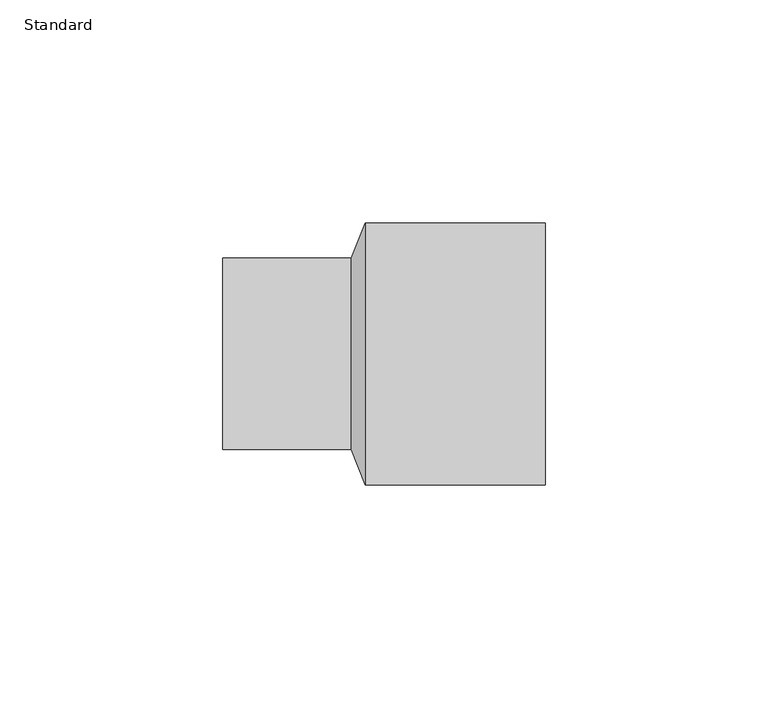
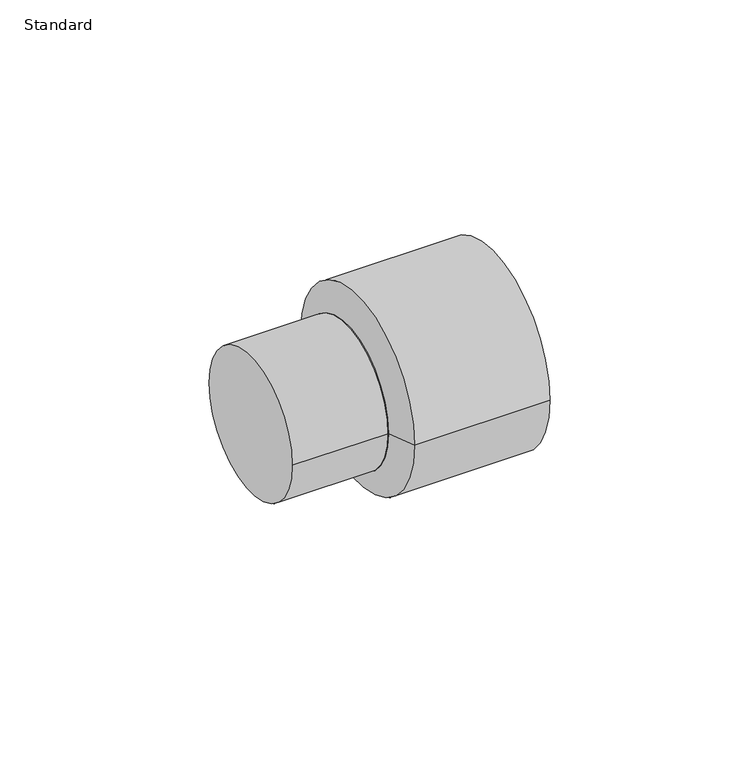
"""IFC4 building model written with IfcOpenShell, lengths in millimetres: pipe fitting geometry, M_Coupling Reducing - CPVC - Sch 40 : Standard."""

import ifcopenshell
import ifcopenshell.guid

model = None  # the IFC model being written
_history = None  # IfcOwnerHistory: only IFC2X3 demands one
_inside = {}  # id of a spatial element -> (the spatial element, [elements in it])
_under = {}  # id of a project, library or spatial element -> (it, [spatial elements below it])
_declared = {}  # id of a project -> (the project, [libraries it declares])
_typed = {}  # id of a type object -> (the type object, [elements of that type])
_made_of = {}  # id of a material, layer set ... -> (it, [elements and type objects made of it])


def new_model(schema):
    """Start an empty IFC model of exactly this schema.

    Asked for "IFC4X3", IfcOpenShell would pick the latest addendum, in which some entities
    have other attributes; the version numbers below select the first issue.
    IFC2X3 requires an IfcOwnerHistory on every rooted entity: one is made here for all.
    """
    global model, _history
    if schema == "IFC4X3":
        model = ifcopenshell.file(schema_version=(4, 3, 0, 0))
    else:
        model = ifcopenshell.file(schema=schema)
    _inside.clear()
    _under.clear()
    _declared.clear()
    _typed.clear()
    _made_of.clear()
    _history = None
    if model.schema == "IFC2X3":
        org = make("IfcOrganization", Name="unknown")
        user = make(
            "IfcPersonAndOrganization",
            ThePerson=make("IfcPerson", FamilyName="unknown"),
            TheOrganization=org,
        )
        app = make(
            "IfcApplication",
            ApplicationDeveloper=org,
            Version="unknown",
            ApplicationFullName="unknown",
            ApplicationIdentifier="unknown",
        )
        _history = make(
            "IfcOwnerHistory",
            OwningUser=user,
            OwningApplication=app,
            ChangeAction="ADDED",
            CreationDate=0,
        )
    return model


def make(cls, **values):
    """One entity of the class cls with the attributes given. An attribute that is None is left unset."""
    return model.create_entity(
        cls, **{name: value for name, value in values.items() if value is not None}
    )


def rooted(cls, **values):
    """An entity with a GlobalId (a new one), such as an element, a storey or a relation."""
    return make(cls, GlobalId=ifcopenshell.guid.new(), OwnerHistory=_history, **values)


def si_unit(unit_type, name, prefix=None):
    """IfcSIUnit, for example si_unit("LENGTHUNIT", "METRE", prefix="MILLI")."""
    return make("IfcSIUnit", UnitType=unit_type, Prefix=prefix, Name=name)


def assignment(units):
    """IfcUnitAssignment: the units of a project."""
    return None if units is None else make("IfcUnitAssignment", Units=units)


def point(xyz):
    """IfcCartesianPoint."""
    return None if xyz is None else make("IfcCartesianPoint", Coordinates=xyz)


def direction(xyz):
    """IfcDirection."""
    return None if xyz is None else make("IfcDirection", DirectionRatios=xyz)


def frame(location, z_axis=None, x_axis=None):
    """IfcAxis2Placement3D, a coordinate frame: its origin and axes. An axis left out is left unset."""
    return make(
        "IfcAxis2Placement3D",
        Location=point(location),
        Axis=direction(z_axis),
        RefDirection=direction(x_axis),
    )


def frame_2d(location, x_axis=None):
    """IfcAxis2Placement2D, a coordinate frame in the plane: its origin and x axis."""
    return make(
        "IfcAxis2Placement2D", Location=point(location), RefDirection=direction(x_axis)
    )


def origin():
    """The frame at (0, 0, 0) with its axes left unset."""
    return frame((0.0, 0.0, 0.0))


def origin_2d():
    """The frame at (0, 0) in the plane with its x axis left unset."""
    return frame_2d((0.0, 0.0))


def place(relative_to, where):
    """IfcLocalPlacement: puts the frame where relative to a parent placement (None: the world)."""
    return make(
        "IfcLocalPlacement", PlacementRelTo=relative_to, RelativePlacement=where
    )


def context(
    kind, dimensions, precision=None, world=None, true_north=None, identifier=None
):
    """IfcGeometricRepresentationContext, for example the 3D "Model" context."""
    return make(
        "IfcGeometricRepresentationContext",
        ContextIdentifier=identifier,
        ContextType=kind,
        CoordinateSpaceDimension=dimensions,
        Precision=precision,
        WorldCoordinateSystem=world,
        TrueNorth=true_north,
    )


def project(units=None, contexts=None):
    """IfcProject with its units and contexts."""
    return rooted(
        "IfcProject",
        Name="project",
        RepresentationContexts=contexts,
        UnitsInContext=assignment(units),
    )


def spatial(cls, under=None, at=None, **own):
    """A site, building, storey or space (cls), placed at a placement, below another one or the project."""
    s = rooted(cls, ObjectPlacement=at, **own)
    if under is not None:
        _under.setdefault(under.id(), (under, []))[1].append(s)
    return s


def polyline(points):
    """IfcPolyline through the points."""
    return make("IfcPolyline", Points=[point(p) for p in points])


def circle_curve(where, radius):
    """IfcCircle in the frame where."""
    return make("IfcCircle", Position=where, Radius=radius)


def trimmed(basis, trim1, trim2, sense, master):
    """IfcTrimmedCurve: the piece of a basis curve between two trims."""
    return make(
        "IfcTrimmedCurve",
        BasisCurve=basis,
        Trim1=trim1,
        Trim2=trim2,
        SenseAgreement=sense,
        MasterRepresentation=master,
    )


def segment(curve, same_sense, transition):
    """IfcCompositeCurveSegment."""
    return make(
        "IfcCompositeCurveSegment",
        Transition=transition,
        SameSense=same_sense,
        ParentCurve=curve,
    )


def composite_curve(segments, self_intersect=None):
    """IfcCompositeCurve: segments joined end to end."""
    return make("IfcCompositeCurve", Segments=segments, SelfIntersect=self_intersect)


def outline(outer, holes=None, kind="AREA"):
    """IfcArbitraryClosedProfileDef: a profile drawn as a closed curve; with holes, ...WithVoids."""
    if holes is None:
        return make("IfcArbitraryClosedProfileDef", ProfileType=kind, OuterCurve=outer)
    return make(
        "IfcArbitraryProfileDefWithVoids",
        ProfileType=kind,
        OuterCurve=outer,
        InnerCurves=holes,
    )


def extrude(swept, where, along, depth):
    """IfcExtrudedAreaSolid: the profile swept, set in the frame where, extruded along a direction by depth."""
    return make(
        "IfcExtrudedAreaSolid",
        SweptArea=swept,
        Position=where,
        ExtrudedDirection=direction(along),
        Depth=depth,
    )


def shape(context_of_items, identifier, shape_type, items):
    """IfcShapeRepresentation: the items that make up one representation, for example the "Body"."""
    return make(
        "IfcShapeRepresentation",
        ContextOfItems=context_of_items,
        RepresentationIdentifier=identifier,
        RepresentationType=shape_type,
        Items=items,
    )


def source(mapping_origin, context_of_items, identifier, shape_type, items):
    """IfcRepresentationMap: a shape defined once, which mapped items show again and again."""
    return make(
        "IfcRepresentationMap",
        MappingOrigin=mapping_origin,
        MappedRepresentation=shape(context_of_items, identifier, shape_type, items),
    )


def transform(
    local_origin,
    x_axis=None,
    y_axis=None,
    z_axis=None,
    scale=None,
    scale2=None,
    scale3=None,
    uniform=True,
):
    """IfcCartesianTransformationOperator3D, or its non-uniform kind. x_axis, y_axis, z_axis: its Axis1, 2, 3."""
    if uniform:
        return make(
            "IfcCartesianTransformationOperator3D",
            Axis1=direction(x_axis),
            Axis2=direction(y_axis),
            LocalOrigin=point(local_origin),
            Scale=scale,
            Axis3=direction(z_axis),
        )
    return make(
        "IfcCartesianTransformationOperator3DnonUniform",
        Axis1=direction(x_axis),
        Axis2=direction(y_axis),
        LocalOrigin=point(local_origin),
        Scale=scale,
        Axis3=direction(z_axis),
        Scale2=scale2,
        Scale3=scale3,
    )


def mapped(mapping_source, mapping_target):
    """IfcMappedItem: shows the shape of a source again, moved by a transform."""
    return make(
        "IfcMappedItem", MappingSource=mapping_source, MappingTarget=mapping_target
    )


def made_of(thing, what):
    """Note that an element or type object is made of a material, layer set ...; save() writes the relation."""
    if what is not None:
        _made_of.setdefault(what.id(), (what, []))[1].append(thing)
    return thing


def element(
    cls,
    number,
    at=None,
    inside=None,
    cuts=None,
    type_object=None,
    material=None,
    context=None,
    identifier="Body",
    shape_type=None,
    held_by="IfcProductDefinitionShape",
    body=None,
    shapes=None,
    **own,
):
    """One element of the class cls, such as IfcWall. Its Tag is "e" and its number.

    at: its placement. inside: the storey or other place that contains it. cuts: it is an
    opening in that element (IfcRelVoidsElement). A single representation is given by context,
    identifier, shape_type and body (its items); several are given by shapes. held_by: the class
    of the entity that holds the representations. save() writes the other relations.
    """
    e = rooted(cls, Tag="e%d" % number, ObjectPlacement=at, **own)
    if body is not None:
        shapes = [shape(context, identifier, shape_type, body)]
    if shapes is not None:
        e.Representation = make(held_by, Representations=shapes)
    if inside is not None:
        _inside.setdefault(inside.id(), (inside, []))[1].append(e)
    if cuts is not None:
        rooted(
            "IfcRelVoidsElement", RelatingBuildingElement=cuts, RelatedOpeningElement=e
        )
    if type_object is not None:
        _typed.setdefault(type_object.id(), (type_object, []))[1].append(e)
    return made_of(e, material)


def aggregate(whole, parts):
    """IfcRelAggregates: a whole, such as a stair, and the parts it consists of."""
    return rooted("IfcRelAggregates", RelatingObject=whole, RelatedObjects=parts)


def save(model, path):
    """Write the relations noted so far, then the file.

    IfcRelAggregates (storeys below a building ...), IfcRelContainedInSpatialStructure (elements
    in a storey), IfcRelDefinesByType, IfcRelAssociatesMaterial and IfcRelDeclares: one each for
    every whole, place, type object, material and project.
    """
    for whole, parts in _under.values():
        aggregate(whole, parts)
    for where, things in _inside.values():
        rooted(
            "IfcRelContainedInSpatialStructure",
            RelatedElements=things,
            RelatingStructure=where,
        )
    for kind, things in _typed.values():
        rooted("IfcRelDefinesByType", RelatedObjects=things, RelatingType=kind)
    for what, things in _made_of.values():
        rooted("IfcRelAssociatesMaterial", RelatedObjects=things, RelatingMaterial=what)
    for by, libraries in _declared.values():
        rooted("IfcRelDeclares", RelatingContext=by, RelatedDefinitions=libraries)
    model.write(path)


def plane_surface(at):
    """IfcPlane: the flat surface through the origin of the frame at, square to its z axis."""
    return make("IfcPlane", Position=at)


def revolved_surface(curve, axis_point, axis_direction):
    """IfcSurfaceOfRevolution: the curve turned about the line through axis_point along axis_direction."""
    return make(
        "IfcSurfaceOfRevolution",
        SweptCurve=make("IfcArbitraryOpenProfileDef", ProfileType="CURVE", Curve=curve),
        AxisPosition=make("IfcAxis1Placement", Location=point(axis_point), Axis=direction(axis_direction)),
    )


def advanced_brep(points, edges, surfaces, faces):
    """IfcAdvancedBrep: a solid bounded by faces that lie on surfaces and meet in shared edges.

    An edge is (start, end): straight between two places in points (the first is 0);
    or (start, end, curve); or (start, end, curve, False) where it runs against its curve.
    A face is (place in surfaces, loops), or (place, loops, False) where it looks against
    its surface's normal. A loop lists edges by number (the first is 1), with a minus sign
    where the edge is run from its end to its start. The first loop is the outer one.
    """
    corners = [point(p) for p in points]
    vertices = [make("IfcVertexPoint", VertexGeometry=c) for c in corners]
    made = []
    for start, end, *more in edges:
        made.append(
            make(
                "IfcEdgeCurve",
                EdgeStart=vertices[start],
                EdgeEnd=vertices[end],
                EdgeGeometry=more[0] if more else make("IfcPolyline", Points=[corners[start], corners[end]]),
                SameSense=more[1] if len(more) > 1 else True,
            )
        )
    hull = []
    for where, loops, *sense in faces:
        bounds = []
        for j, loop in enumerate(loops):
            ring = [make("IfcOrientedEdge", EdgeElement=made[abs(k) - 1], Orientation=k > 0) for k in loop]
            bounds.append(
                make(
                    "IfcFaceOuterBound" if j == 0 else "IfcFaceBound",
                    Bound=make("IfcEdgeLoop", EdgeList=ring),
                    Orientation=True,
                )
            )
        hull.append(make("IfcAdvancedFace", Bounds=bounds, FaceSurface=surfaces[where], SameSense=sense[0] if sense else True))
    return make("IfcAdvancedBrep", Outer=make("IfcClosedShell", CfsFaces=hull))


def standard_6bd4b727(model_context):
    return source(origin(), model_context, "Body", "SolidModel", [
        advanced_brep(
        [(31.877, -29.3949219, 0.0), (31.877, 29.3949219, 0.0), (28.702, -21.463, 0.0), (28.702, 21.463, 0.0)],
        [
            (0, 1, circle_curve(frame((31.877, 0.0, 0.0), z_axis=(1.0, -4.273914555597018e-12, 0.0), x_axis=(-4.273894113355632e-12, -1.0, 0.0)), 29.3949219)),
            (1, 0, circle_curve(frame((31.877, 0.0, 0.0), z_axis=(1.0, -4.273914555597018e-12, 0.0), x_axis=(4.273894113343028e-12, 1.0, 0.0)), 29.3949219)),
            (2, 3, circle_curve(frame((28.702, 0.0, 0.0), z_axis=(-1.0, 4.273914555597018e-12, 0.0), x_axis=(4.273894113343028e-12, 1.0, 0.0)), 21.463)),
            (3, 2, circle_curve(frame((28.702, 0.0, 0.0), z_axis=(-1.0, 4.273914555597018e-12, 0.0), x_axis=(-4.273894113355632e-12, -1.0, 0.0)), 21.463)),
            (3, 1),
            (0, 2),
        ],
        [
            plane_surface(frame((31.877, 0.0, 0.0), z_axis=(1.0, 0.0, 0.0), x_axis=(0.0, 0.0, -1.0))),
            plane_surface(frame((28.702, 0.0, 0.0), z_axis=(-1.0, 0.0, 0.0), x_axis=(0.0, 0.0, -1.0))),
            revolved_surface(polyline([(28.702, 21.462999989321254, 0.0), (31.87700000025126, 29.394921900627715, 0.0)]), (20.1107625, 0.0, 0.0), (1.0, -4.273914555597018e-12, 0.0)),
            revolved_surface(polyline([(28.70199999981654, -21.462999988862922, 0.0), (31.877, -29.3949219, 0.0)]), (20.1107625, 0.0, 0.0), (1.0, -4.273914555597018e-12, 0.0)),
        ],
        [
            (0, [[1, 2]]),
            (1, [[3, 4]]),
            (2, [[-4, 5, -1, 6]]),
            (3, [[-3, -6, -2, -5]]),
        ],
    ),
        extrude(outline(composite_curve([segment(trimmed(circle_curve(origin_2d(), 29.3949219), [point((-29.3949219, 0.0))], [point((29.3949219, 0.0))], False, "CARTESIAN"), True, "CONTINUOUS"), segment(trimmed(circle_curve(origin_2d(), 29.3949219), [point((29.3949219, 0.0))], [point((-29.3949219, 0.0))], False, "CARTESIAN"), True, "CONTINUOUS")], self_intersect=False)), frame((31.877, 0.0, 0.0), z_axis=(1.0, 0.0, 0.0), x_axis=(0.0, 1.0, 0.0)), (0.0, 0.0, 1.0), 40.321875),
        extrude(outline(composite_curve([segment(trimmed(circle_curve(origin_2d(), 21.463), [point((-21.463, 0.0))], [point((21.463, 0.0))], False, "CARTESIAN"), True, "CONTINUOUS"), segment(trimmed(circle_curve(origin_2d(), 21.463), [point((21.463, 0.0))], [point((-21.463, 0.0))], False, "CARTESIAN"), True, "CONTINUOUS")], self_intersect=False)), frame((0.0, 0.0, 0.0), z_axis=(1.0, 0.0, 0.0), x_axis=(0.0, 1.0, 0.0)), (0.0, 0.0, 1.0), 28.702),
    ])


if __name__ == "__main__":
    model = new_model("IFC4")
    model_context = context("Model", 3, world=origin())
    ifc_project = project(units=[si_unit("LENGTHUNIT", "METRE", prefix="MILLI")], contexts=[model_context])
    site = spatial("IfcSite", under=ifc_project)
    building = spatial("IfcBuilding", under=site)
    placement = place(None, origin())
    standard_shape = standard_6bd4b727(model_context)
    element("IfcPipeFitting", 1, ObjectType="M_Coupling Reducing - CPVC - Sch 40 : Standard", at=placement, inside=building, context=model_context, shape_type="MappedRepresentation", body=[
        mapped(standard_shape, transform((0.0, 0.0, 0.0), x_axis=(1.0, 0.0, 0.0), y_axis=(0.0, 1.0, 0.0), z_axis=(0.0, 0.0, 1.0))),
    ])
    save(model, "model.ifc")
